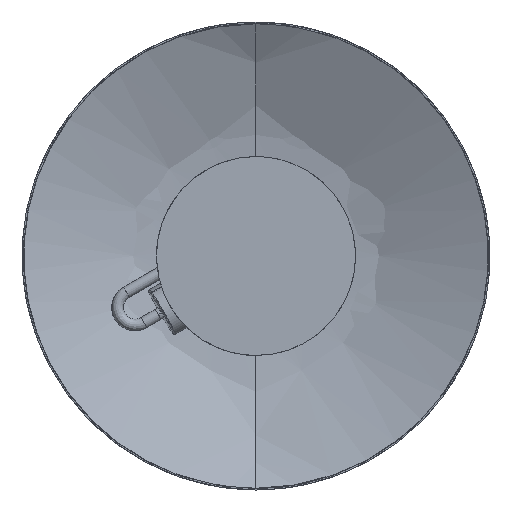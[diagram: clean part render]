
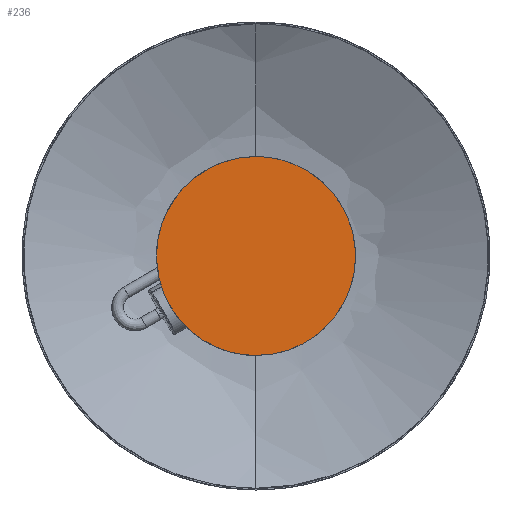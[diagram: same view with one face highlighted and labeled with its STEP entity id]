
A CAD part, front view. The second image highlights one B-rep face of the part: STEP entity #236.
In plain terms, the highlighted planar face has unit normal (0, -1, 0).
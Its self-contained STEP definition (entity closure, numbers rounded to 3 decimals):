
#236=ADVANCED_FACE('',(#406),#2439,.T.);
#406=FACE_OUTER_BOUND('',#583,.T.);
#583=EDGE_LOOP('',(#1167,#1168,#1169,#1170,#1171));
#1167=ORIENTED_EDGE('',*,*,#1676,.T.);
#1168=ORIENTED_EDGE('',*,*,#1679,.T.);
#1169=ORIENTED_EDGE('',*,*,#1680,.T.);
#1170=ORIENTED_EDGE('',*,*,#1678,.T.);
#1171=ORIENTED_EDGE('',*,*,#1677,.T.);
#1676=EDGE_CURVE('',#2343,#2342,#2087,.T.);
#1677=EDGE_CURVE('',#2344,#2343,#2088,.T.);
#1678=EDGE_CURVE('',#2351,#2344,#2089,.T.);
#1679=EDGE_CURVE('',#2342,#2345,#2090,.T.);
#1680=EDGE_CURVE('',#2345,#2351,#2091,.T.);
#2087=(
BOUNDED_CURVE()
B_SPLINE_CURVE(2,(#7906,#7907,#7908,#7909,#7910),.UNSPECIFIED.,.F.,.F.)
B_SPLINE_CURVE_WITH_KNOTS((3,2,3),(133.518,267.035,400.553),
 .UNSPECIFIED.)
CURVE()
GEOMETRIC_REPRESENTATION_ITEM()
RATIONAL_B_SPLINE_CURVE((1.,0.707,1.,0.707,1.))
REPRESENTATION_ITEM('')
);
#2088=(
BOUNDED_CURVE()
B_SPLINE_CURVE(2,(#7911,#7912,#7913),.UNSPECIFIED.,.F.,.F.)
B_SPLINE_CURVE_WITH_KNOTS((3,3),(4.402,133.518),
 .UNSPECIFIED.)
CURVE()
GEOMETRIC_REPRESENTATION_ITEM()
RATIONAL_B_SPLINE_CURVE((1.,0.724,1.))
REPRESENTATION_ITEM('')
);
#2089=(
BOUNDED_CURVE()
B_SPLINE_CURVE(2,(#7914,#7915,#7916),.UNSPECIFIED.,.F.,.F.)
B_SPLINE_CURVE_WITH_KNOTS((3,3),(0.,4.402),.UNSPECIFIED.)
CURVE()
GEOMETRIC_REPRESENTATION_ITEM()
RATIONAL_B_SPLINE_CURVE((1.,1.,1.))
REPRESENTATION_ITEM('')
);
#2090=(
BOUNDED_CURVE()
B_SPLINE_CURVE(2,(#7917,#7918,#7919),.UNSPECIFIED.,.F.,.F.)
B_SPLINE_CURVE_WITH_KNOTS((3,3),(400.553,529.668),
 .UNSPECIFIED.)
CURVE()
GEOMETRIC_REPRESENTATION_ITEM()
RATIONAL_B_SPLINE_CURVE((1.,0.724,1.))
REPRESENTATION_ITEM('')
);
#2091=(
BOUNDED_CURVE()
B_SPLINE_CURVE(2,(#7920,#7921,#7922),.UNSPECIFIED.,.F.,.F.)
B_SPLINE_CURVE_WITH_KNOTS((3,3),(529.668,534.071),
 .UNSPECIFIED.)
CURVE()
GEOMETRIC_REPRESENTATION_ITEM()
RATIONAL_B_SPLINE_CURVE((1.,1.,1.))
REPRESENTATION_ITEM('')
);
#2342=VERTEX_POINT('',#7789);
#2343=VERTEX_POINT('',#7790);
#2344=VERTEX_POINT('',#7791);
#2345=VERTEX_POINT('',#7792);
#2351=VERTEX_POINT('',#7798);
#2439=PLANE('',#2621);
#2621=AXIS2_PLACEMENT_3D('',#7775,#2647,$);
#2647=DIRECTION('',(0.,-1.,0.));
#7775=CARTESIAN_POINT('',(160.479,0.,192.814));
#7789=CARTESIAN_POINT('',(0.,0.,85.));
#7790=CARTESIAN_POINT('',(0.,0.,-85.));
#7791=CARTESIAN_POINT('',(-84.906,0.,-4.));
#7792=CARTESIAN_POINT('',(-84.906,0.,4.));
#7798=CARTESIAN_POINT('',(-85.,0.,0.));
#7906=CARTESIAN_POINT('',(0.,0.,-85.));
#7907=CARTESIAN_POINT('',(85.,0.,-85.));
#7908=CARTESIAN_POINT('',(85.,0.,0.));
#7909=CARTESIAN_POINT('',(85.,0.,85.));
#7910=CARTESIAN_POINT('',(0.,0.,85.));
#7911=CARTESIAN_POINT('',(-84.906,0.,-4.));
#7912=CARTESIAN_POINT('',(-81.09,0.,-85.));
#7913=CARTESIAN_POINT('',(0.,0.,-85.));
#7914=CARTESIAN_POINT('',(-85.,0.,0.));
#7915=CARTESIAN_POINT('',(-85.,0.,-2.001));
#7916=CARTESIAN_POINT('',(-84.906,0.,-4.));
#7917=CARTESIAN_POINT('',(0.,0.,85.));
#7918=CARTESIAN_POINT('',(-81.09,0.,85.));
#7919=CARTESIAN_POINT('',(-84.906,0.,4.));
#7920=CARTESIAN_POINT('',(-84.906,0.,4.));
#7921=CARTESIAN_POINT('',(-85.,0.,2.001));
#7922=CARTESIAN_POINT('',(-85.,0.,0.));
